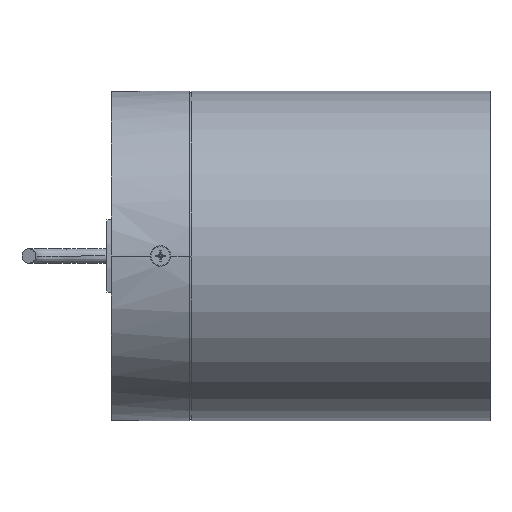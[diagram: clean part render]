
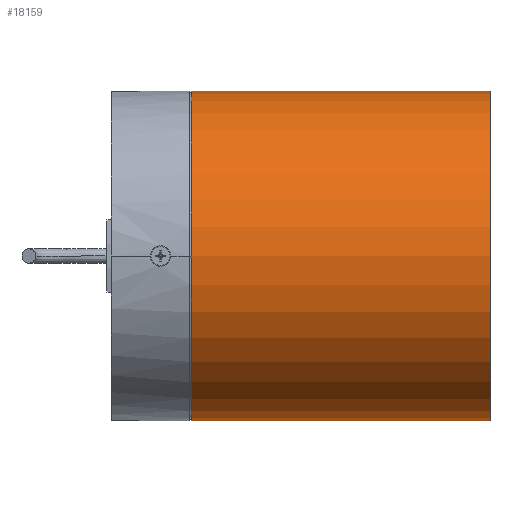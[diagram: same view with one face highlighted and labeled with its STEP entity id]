
A CAD part, left-side view. The second image highlights one B-rep face of the part: STEP entity #18159.
In plain terms, the highlighted cylindrical face has radius 80 mm (diameter 160 mm), a partial arc.
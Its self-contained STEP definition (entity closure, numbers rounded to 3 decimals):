
#17494=DIRECTION('',(0.,-1.,0.));
#17495=VECTOR('',#17494,145.);
#17496=CARTESIAN_POINT('',(0.,112.,80.));
#17497=LINE('',#17496,#17495);
#17498=DIRECTION('',(0.,-1.,0.));
#17499=VECTOR('',#17498,145.);
#17500=CARTESIAN_POINT('',(69.282,112.,40.));
#17501=LINE('',#17500,#17499);
#17502=CARTESIAN_POINT('',(0.,-33.,0.));
#17503=DIRECTION('',(0.,1.,0.));
#17504=DIRECTION('',(0.866,0.,0.5));
#17505=AXIS2_PLACEMENT_3D('',#17502,#17503,#17504);
#17507=CARTESIAN_POINT('',(0.,-33.,0.));
#17508=DIRECTION('',(0.,1.,0.));
#17509=DIRECTION('',(1.,0.,0.));
#17510=AXIS2_PLACEMENT_3D('',#17507,#17508,#17509);
#17512=CARTESIAN_POINT('',(0.,-33.,0.));
#17513=DIRECTION('',(0.,1.,0.));
#17514=DIRECTION('',(-1.,0.,0.));
#17515=AXIS2_PLACEMENT_3D('',#17512,#17513,#17514);
#17702=CARTESIAN_POINT('',(0.,112.,0.));
#17703=DIRECTION('',(0.,-1.,0.));
#17704=DIRECTION('',(0.,0.,1.));
#17705=AXIS2_PLACEMENT_3D('',#17702,#17703,#17704);
#18004=CARTESIAN_POINT('',(0.,112.,80.));
#18005=CARTESIAN_POINT('',(69.282,112.,40.));
#18006=VERTEX_POINT('',#18004);
#18007=VERTEX_POINT('',#18005);
#18128=CARTESIAN_POINT('',(0.,-33.,80.));
#18129=CARTESIAN_POINT('',(69.282,-33.,40.));
#18130=VERTEX_POINT('',#18128);
#18131=VERTEX_POINT('',#18129);
#18132=CARTESIAN_POINT('',(-80.,-33.,0.));
#18133=VERTEX_POINT('',#18132);
#18134=CARTESIAN_POINT('',(80.,-33.,0.));
#18135=VERTEX_POINT('',#18134);
#18140=CARTESIAN_POINT('',(0.,0.,0.));
#18141=DIRECTION('',(0.,1.,0.));
#18142=DIRECTION('',(1.,0.,0.));
#18143=AXIS2_PLACEMENT_3D('',#18140,#18141,#18142);
#18144=CYLINDRICAL_SURFACE('',#18143,80.);
#18146=ORIENTED_EDGE('',*,*,#18145,.F.);
#18148=ORIENTED_EDGE('',*,*,#18147,.F.);
#18150=ORIENTED_EDGE('',*,*,#18149,.T.);
#18152=ORIENTED_EDGE('',*,*,#18151,.F.);
#18154=ORIENTED_EDGE('',*,*,#18153,.F.);
#18156=ORIENTED_EDGE('',*,*,#18155,.F.);
#18157=EDGE_LOOP('',(#18146,#18148,#18150,#18152,#18154,#18156));
#18158=FACE_OUTER_BOUND('',#18157,.F.);
#18159=ADVANCED_FACE('',(#18158),#18144,.T.);
#17506=CIRCLE('',#17505,80.);
#17511=CIRCLE('',#17510,80.);
#17516=CIRCLE('',#17515,80.);
#17706=CIRCLE('',#17705,80.);
#18145=EDGE_CURVE('',#18007,#18131,#17501,.T.);
#18147=EDGE_CURVE('',#18006,#18007,#17706,.T.);
#18149=EDGE_CURVE('',#18006,#18130,#17497,.T.);
#18151=EDGE_CURVE('',#18133,#18130,#17516,.T.);
#18153=EDGE_CURVE('',#18135,#18133,#17511,.T.);
#18155=EDGE_CURVE('',#18131,#18135,#17506,.T.);
